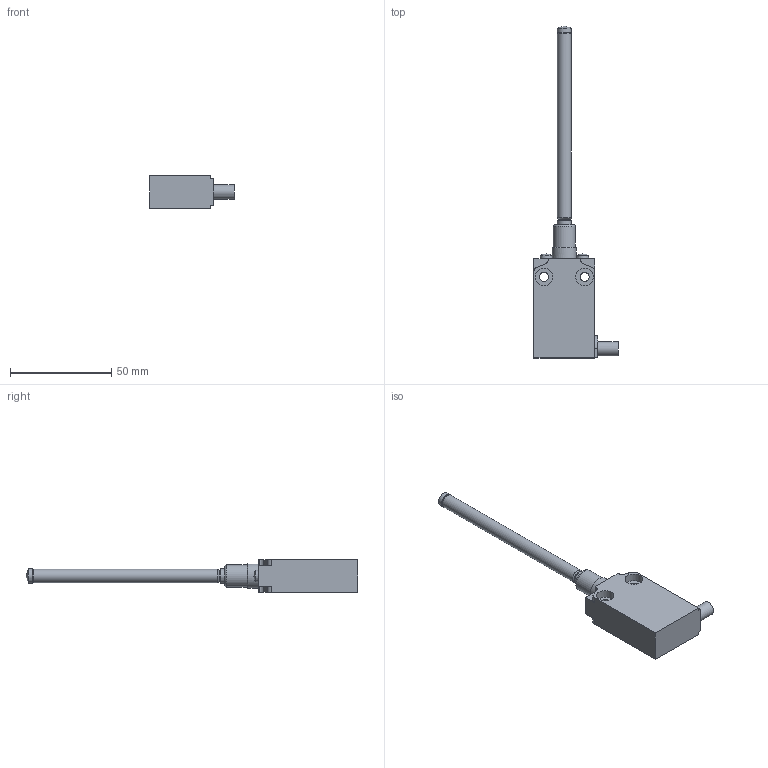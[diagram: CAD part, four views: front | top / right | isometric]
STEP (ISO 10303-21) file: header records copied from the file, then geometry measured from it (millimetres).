
FILE_DESCRIPTION(/* description */ (''),/* implementation_level */ '2;1');
FILE_NAME(/* name */ 'C:\Users\servizio.tecnico\Desktop\CADENAS\3D\EP1_STP\STP_EP1_G93U.stp',/* time_stamp */ '2017-09-01T16:11:25+02:00',/* author */ ('servizio.tecnico'),/* organization */ (''),/* preprocessor_version */ 'ST-DEVELOPER v16.1',/* originating_system */ 'Autodesk Inventor 2016',/* authorisation */ '');
FILE_SCHEMA (('AUTOMOTIVE_DESIGN { 1 0 10303 214 3 1 1 }'));
Length unit declared in the file: millimetre
Products named in the file (3): Product; EP1G93; BASE ASSI 
Assembly tree (2 placements, depth 3):
  BASE ASSI 
    EP1G93
      Product
Bounding box: 41.5 x 163.7 x 16 mm (x, y, z)
Volume: 27921.6 mm3; surface area: 9859.4 mm2
Topology: 3 solids, 3 shells, 94 faces, 232 edges, 151 vertices
Faces by surface type: plane 48, cylinder 30, cone 9, torus 5, sphere 2
Full cylindrical faces by diameter (mm): 4.4 x2, 5.9 x1, 6.8 x1, 7 x3, 8.7 x4, 11 x1, 12 x1
Entity records: 2673 total; most frequent: DIRECTION 468, CARTESIAN_POINT 447, ORIENTED_EDGE 388, EDGE_CURVE 194, AXIS2_PLACEMENT_3D 183, VERTEX_POINT 138, EDGE_LOOP 130, LINE 102
